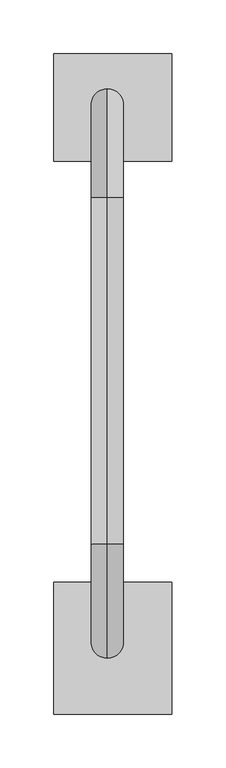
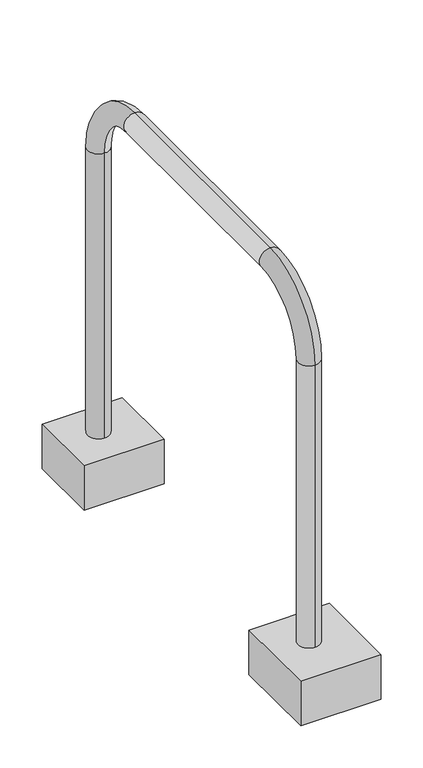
"""IFC4 building model written with IfcOpenShell, lengths in millimetres: furniture geometry, Fixierte Ausstattung Veloständer : Veloständer."""

from ifc_helpers import new_model, si_unit, point, frame, origin, place, context, project, spatial, polyline, circle_curve, ellipse_curve, trimmed, outline, extrude, source, transform, mapped, element, save
from ifc_brep_helpers import plane_surface, cylinder_surface, revolved_surface, advanced_brep


def furniture_cb038389(model_context):
    return source(origin(), model_context, "Body", "SolidModel", [
        extrude(outline(polyline([(-49.9327683, 356.2242628), (60.1165629, 356.2242628), (60.1165629, 256.3773713), (-49.9327683, 256.3773713), (-49.9327683, 356.2242628)])), frame((0.0, 0.0, -64.4715884), z_axis=(0.0, 0.0, 1.0), x_axis=(1.0, 0.0, 0.0)), (0.0, 0.0, 1.0), 64.4715884),
        extrude(outline(polyline([(-49.9327683, -135.7733814), (60.1165629, -135.7733814), (60.1165629, -258.4081088), (-49.9327683, -258.4081088), (-49.9327683, -135.7733814)])), frame((0.0, 0.0, -64.4715884), z_axis=(0.0, 0.0, 1.0), x_axis=(1.0, 0.0, 0.0)), (0.0, 0.0, 1.0), 64.4715884),
        advanced_brep(
        [(0.0, -206.2963259, 0.0), (0.0, -176.2963259, 0.0), (0.0, -176.2963259, 408.9713217), (0.0, -206.2963259, 408.9713217), (0.0, -100.2676476, 485.0), (0.0, -100.2676476, 515.0), (0.0, 222.0286783, 485.0), (0.0, 222.0286783, 515.0), (0.0, 293.7036741, 413.3250042), (0.0, 323.7036741, 413.3250042), (0.0, 323.7036741, 0.0), (0.0, 293.7036741, 0.0)],
        [
            (0, 1, circle_curve(frame((0.0, -191.2963259, 0.0), z_axis=(0.0, 0.0, -1.0), x_axis=(0.0, 1.0, 0.0)), 15.0)),
            (1, 0, circle_curve(frame((0.0, -191.2963259, 0.0), z_axis=(0.0, 0.0, -1.0), x_axis=(0.0, 1.0, 0.0)), 15.0)),
            (1, 2),
            (2, 3, circle_curve(frame((0.0, -191.2963259, 408.9713217), z_axis=(0.0, 0.0, -1.0), x_axis=(0.0, 1.0, 0.0)), 15.0)),
            (3, 0),
            (3, 2, circle_curve(frame((0.0, -191.2963259, 408.9713217), z_axis=(0.0, 0.0, -1.0), x_axis=(0.0, 1.0, 0.0)), 15.0)),
            (4, 5, circle_curve(frame((0.0, -100.2676476, 500.0), z_axis=(0.0, -1.0, 0.0), x_axis=(0.0, 0.0, -1.0)), 15.0)),
            (5, 3, circle_curve(frame((0.0, -100.2676476, 408.9713217), z_axis=(1.0, 0.0, 0.0), x_axis=(0.0, -1.0, 0.0)), 106.0286783)),
            (2, 4, circle_curve(frame((0.0, -100.2676476, 408.9713217), z_axis=(-1.0, 0.0, 0.0), x_axis=(0.0, -1.0, 0.0)), 76.0286783)),
            (5, 4, circle_curve(frame((0.0, -100.2676476, 500.0), z_axis=(0.0, -1.0, 0.0), x_axis=(0.0, 0.0, -1.0)), 15.0)),
            (4, 6),
            (6, 7, circle_curve(frame((0.0, 222.0286783, 500.0), z_axis=(0.0, -1.0, 0.0), x_axis=(0.0, 0.0, -1.0)), 15.0)),
            (7, 5),
            (7, 6, circle_curve(frame((0.0, 222.0286783, 500.0), z_axis=(0.0, -1.0, 0.0), x_axis=(0.0, 0.0, -1.0)), 15.0)),
            (8, 9, circle_curve(frame((0.0, 308.7036741, 413.3250042), z_axis=(0.0, 0.0, 1.0), x_axis=(0.0, -1.0, 0.0)), 15.0)),
            (9, 7, circle_curve(frame((0.0, 222.0286783, 413.3250042), z_axis=(1.0, 0.0, 0.0), x_axis=(0.0, 0.0, 1.0)), 101.6749958)),
            (6, 8, circle_curve(frame((0.0, 222.0286783, 413.3250042), z_axis=(-1.0, 0.0, 0.0), x_axis=(0.0, 0.0, 1.0)), 71.6749958)),
            (9, 8, circle_curve(frame((0.0, 308.7036741, 413.3250042), z_axis=(0.0, 0.0, 1.0), x_axis=(0.0, -1.0, 0.0)), 15.0)),
            (10, 11, circle_curve(frame((0.0, 308.7036741, 0.0), z_axis=(0.0, 0.0, -1.0), x_axis=(0.0, -1.0, 0.0)), 15.0)),
            (11, 10, circle_curve(frame((0.0, 308.7036741, 0.0), z_axis=(0.0, 0.0, -1.0), x_axis=(0.0, -1.0, 0.0)), 15.0)),
            (8, 11),
            (10, 9),
        ],
        [
            plane_surface(frame((0.0, -191.2963259, 0.0), z_axis=(0.0, 0.0, -1.0), x_axis=(1.0, 0.0, 0.0))),
            cylinder_surface(frame((0.0, -191.2963259, 0.0), z_axis=(0.0, 0.0, -1.0), x_axis=(0.0, 1.0, 0.0)), 15.0),
            revolved_surface(trimmed(ellipse_curve(frame((0.0, -191.2963259, 408.9713217), z_axis=(0.0, 0.0, 1.0), x_axis=(0.0, 1.0, 0.0)), 15.0, 15.0), [point((0.0, -206.2963259, 408.9713217))], [point((0.0, -176.2963259, 408.9713217))], True, "CARTESIAN"), (0.0, -100.2676476, 408.9713217), (1.0, 0.0, 0.0)),
            revolved_surface(trimmed(ellipse_curve(frame((0.0, -191.2963259, 408.9713217), z_axis=(0.0, 0.0, 1.0), x_axis=(0.0, 1.0, 0.0)), 15.0, 15.0), [point((0.0, -176.2963259, 408.9713217))], [point((0.0, -206.2963259, 408.9713217))], True, "CARTESIAN"), (0.0, -100.2676476, 408.9713217), (1.0, 0.0, 0.0)),
            cylinder_surface(frame((0.0, -100.2676476, 500.0), z_axis=(0.0, -1.0, 0.0), x_axis=(0.0, 0.0, -1.0)), 15.0),
            revolved_surface(trimmed(ellipse_curve(frame((0.0, 222.0286783, 500.0), z_axis=(0.0, 1.0, 0.0), x_axis=(0.0, 0.0, -1.0)), 15.0, 15.0), [point((0.0, 222.0286783, 515.0))], [point((0.0, 222.0286783, 485.0))], True, "CARTESIAN"), (0.0, 222.0286783, 413.3250042), (1.0, 0.0, 0.0)),
            revolved_surface(trimmed(ellipse_curve(frame((0.0, 222.0286783, 500.0), z_axis=(0.0, 1.0, 0.0), x_axis=(0.0, 0.0, -1.0)), 15.0, 15.0), [point((0.0, 222.0286783, 485.0))], [point((0.0, 222.0286783, 515.0))], True, "CARTESIAN"), (0.0, 222.0286783, 413.3250042), (1.0, 0.0, 0.0)),
            plane_surface(frame((0.0, 308.7036741, 0.0), z_axis=(0.0, 0.0, -1.0), x_axis=(1.0, 0.0, 0.0))),
            cylinder_surface(frame((0.0, 308.7036741, 413.3250042), z_axis=(0.0, 0.0, 1.0), x_axis=(0.0, -1.0, 0.0)), 15.0),
        ],
        [
            (0, [[1, 2]]),
            (1, [[3, 4, 5, -2]]),
            (1, [[-5, 6, -3, -1]]),
            (2, [[7, 8, -4, 9]]),
            (3, [[10, -9, -6, -8]]),
            (4, [[11, 12, 13, -7]]),
            (4, [[-13, 14, -11, -10]]),
            (5, [[15, 16, -12, 17]]),
            (6, [[18, -17, -14, -16]]),
            (7, [[19, 20]]),
            (8, [[21, -19, 22, -15]]),
            (8, [[-22, -20, -21, -18]]),
        ],
    ),
    ])


if __name__ == "__main__":
    model = new_model("IFC4")
    model_context = context("Model", 3, world=origin())
    ifc_project = project(units=[si_unit("LENGTHUNIT", "METRE", prefix="MILLI")], contexts=[model_context])
    site = spatial("IfcSite", under=ifc_project)
    building = spatial("IfcBuilding", under=site)
    placement = place(None, origin())
    furniture_shape = furniture_cb038389(model_context)
    element("IfcFurniture", 1, ObjectType="Fixierte Ausstattung Veloständer : Veloständer", at=placement, inside=building, context=model_context, shape_type="MappedRepresentation", body=[
        mapped(furniture_shape, transform((0.0, 0.0, 0.0), x_axis=(1.0, 0.0, 0.0), y_axis=(0.0, 1.0, 0.0), z_axis=(0.0, 0.0, 1.0))),
    ])
    save(model, "model.ifc")
